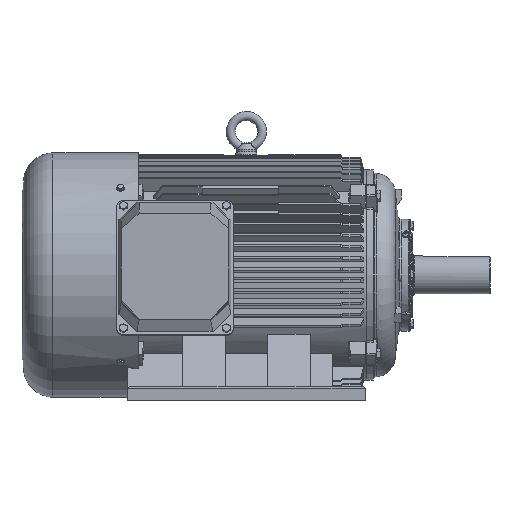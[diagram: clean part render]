
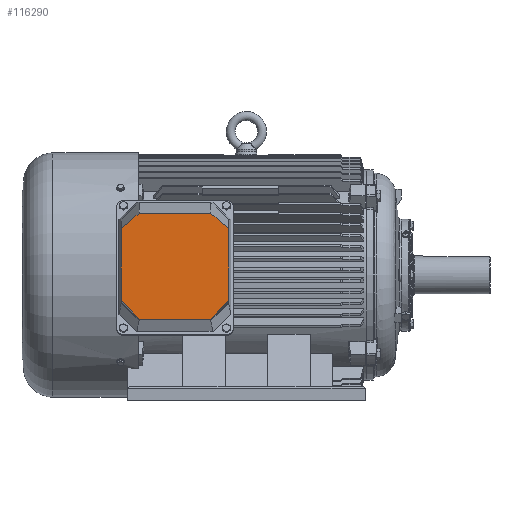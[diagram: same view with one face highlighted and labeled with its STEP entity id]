
A CAD part, left-side view. The second image highlights one B-rep face of the part: STEP entity #116290.
In plain terms, the highlighted planar face has unit normal (-1, 0, 0) as drawn and (0, -0.944, -0.33) by its records, which use the part's own axes.
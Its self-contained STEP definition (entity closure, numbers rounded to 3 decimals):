
#34672=ORIENTED_EDGE('',*,*,#49303,.F.);
#34673=ORIENTED_EDGE('',*,*,#49304,.T.);
#34674=ORIENTED_EDGE('',*,*,#49305,.F.);
#34675=ORIENTED_EDGE('',*,*,#49306,.T.);
#34676=ORIENTED_EDGE('',*,*,#49307,.T.);
#34677=ORIENTED_EDGE('',*,*,#49308,.F.);
#34678=ORIENTED_EDGE('',*,*,#49309,.F.);
#34679=ORIENTED_EDGE('',*,*,#49310,.T.);
#49303=EDGE_CURVE('',#58948,#58949,#69143,.T.);
#49304=EDGE_CURVE('',#58948,#58950,#69144,.T.);
#49305=EDGE_CURVE('',#58951,#58950,#69145,.T.);
#49306=EDGE_CURVE('',#58951,#58952,#69146,.T.);
#49307=EDGE_CURVE('',#58952,#58953,#69147,.T.);
#49308=EDGE_CURVE('',#58954,#58953,#69148,.T.);
#49309=EDGE_CURVE('',#58955,#58954,#69149,.T.);
#49310=EDGE_CURVE('',#58955,#58949,#69150,.T.);
#58948=VERTEX_POINT('',#229625);
#58949=VERTEX_POINT('',#229626);
#58950=VERTEX_POINT('',#229628);
#58951=VERTEX_POINT('',#229630);
#58952=VERTEX_POINT('',#229632);
#58953=VERTEX_POINT('',#229634);
#58954=VERTEX_POINT('',#229636);
#58955=VERTEX_POINT('',#229638);
#69143=LINE('',#229624,#79334);
#69144=LINE('',#229627,#79335);
#69145=LINE('',#229629,#79336);
#69146=LINE('',#229631,#79337);
#69147=LINE('',#229633,#79338);
#69148=LINE('',#229635,#79339);
#69149=LINE('',#229637,#79340);
#69150=LINE('',#229639,#79341);
#79334=VECTOR('',#147464,1000.);
#79335=VECTOR('',#147465,1000.);
#79336=VECTOR('',#147466,1000.);
#79337=VECTOR('',#147467,1000.);
#79338=VECTOR('',#147468,1000.);
#79339=VECTOR('',#147469,1000.);
#79340=VECTOR('',#147470,1000.);
#79341=VECTOR('',#147471,1000.);
#86593=EDGE_LOOP('',(#34672,#34673,#34674,#34675,#34676,#34677,#34678,#34679));
#93875=FACE_BOUND('',#86593,.T.);
#97551=PLANE('',#123429);
#116290=ADVANCED_FACE('',(#93875),#97551,.T.);
#123429=AXIS2_PLACEMENT_3D('',#229623,#147462,#147463);
#147462=DIRECTION('',(0.,-0.944,-0.33));
#147463=DIRECTION('',(0.,0.33,-0.944));
#147464=DIRECTION('',(-1.,0.,0.));
#147465=DIRECTION('',(0.686,-0.24,0.686));
#147466=DIRECTION('',(0.,0.33,-0.944));
#147467=DIRECTION('',(-0.76,-0.215,0.614));
#147468=DIRECTION('',(-1.,0.,0.));
#147469=DIRECTION('',(0.76,-0.215,0.614));
#147470=DIRECTION('',(0.,-0.33,0.944));
#147471=DIRECTION('',(0.686,0.24,-0.686));
#229623=CARTESIAN_POINT('',(130.,-26.055,-129.945));
#229624=CARTESIAN_POINT('',(130.,-26.055,-129.945));
#229625=CARTESIAN_POINT('',(80.,-26.055,-129.945));
#229626=CARTESIAN_POINT('',(-80.,-26.055,-129.945));
#229627=CARTESIAN_POINT('',(103.559,-34.296,-106.386));
#229628=CARTESIAN_POINT('',(120.,-40.047,-89.945));
#229629=CARTESIAN_POINT('',(120.,-26.055,-129.945));
#229630=CARTESIAN_POINT('',(120.,-92.996,61.419));
#229631=CARTESIAN_POINT('',(225.919,-63.078,-24.106));
#229632=CARTESIAN_POINT('',(80.,-104.294,93.718));
#229633=CARTESIAN_POINT('',(130.,-104.294,93.718));
#229634=CARTESIAN_POINT('',(-80.,-104.294,93.718));
#229635=CARTESIAN_POINT('',(-75.784,-105.485,97.122));
#229636=CARTESIAN_POINT('',(-120.,-92.996,61.419));
#229637=CARTESIAN_POINT('',(-120.,-26.055,-129.945));
#229638=CARTESIAN_POINT('',(-120.,-40.047,-89.945));
#229639=CARTESIAN_POINT('',(18.946,8.557,-228.891));
